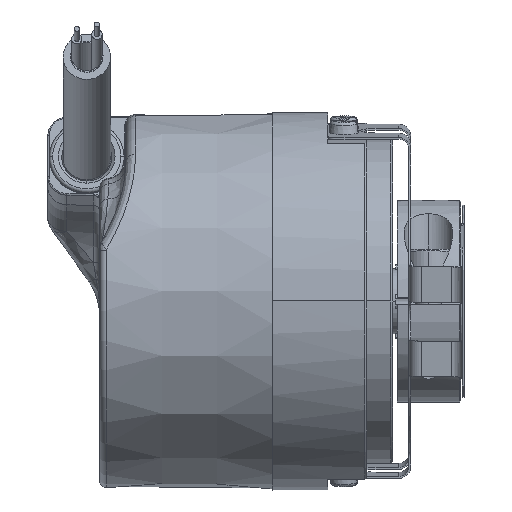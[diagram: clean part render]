
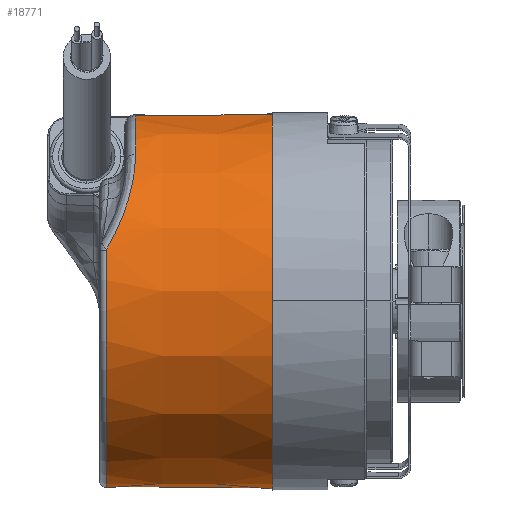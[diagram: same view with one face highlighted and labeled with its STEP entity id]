
A CAD part, top view. The second image highlights one B-rep face of the part: STEP entity #18771.
In plain terms, the highlighted conical face has half-angle 0.5 degrees and reference radius 29 mm.
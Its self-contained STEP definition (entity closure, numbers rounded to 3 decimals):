
#1206 = DIRECTION ( 'NONE',  ( 0., -0.993, -0.122 ) ) ;
#1207 = DIRECTION ( 'NONE',  ( 1., 0., 0. ) ) ;
#1208 = CARTESIAN_POINT ( 'NONE',  ( 7.5, 0., 0. ) ) ;
#1209 = AXIS2_PLACEMENT_3D ( 'NONE', #1208, #1207, #1206 ) ;
#1210 = CIRCLE ( 'NONE', #1209, 28.9 ) ;
#4961 = DIRECTION ( 'NONE',  ( 0., 0.993, 0.122 ) ) ;
#4962 = DIRECTION ( 'NONE',  ( 1., 0., 0. ) ) ;
#4963 = CARTESIAN_POINT ( 'NONE',  ( -18.009, 0., 0. ) ) ;
#4964 = AXIS2_PLACEMENT_3D ( 'NONE', #4963, #4962, #4961 ) ;
#4965 = CIRCLE ( 'NONE', #4964, 28.677 ) ;
#7772 = CARTESIAN_POINT ( 'NONE',  ( -13.513, 28.502, 3.5 ) ) ;
#8276 = CARTESIAN_POINT ( 'NONE',  ( -18.009, 7.822, 27.59 ) ) ;
#9667 = CIRCLE ( 'NONE', #9716, 28.716 ) ;
#9715 = DIRECTION ( 'NONE',  ( 0., -0.993, -0.122 ) ) ;
#9716 = AXIS2_PLACEMENT_3D ( 'NONE', #9918, #9723, #9715 ) ;
#9723 = DIRECTION ( 'NONE',  ( 1., 0., 0. ) ) ;
#9918 = CARTESIAN_POINT ( 'NONE',  ( -13.513, 0., 0. ) ) ;
#10020 = CARTESIAN_POINT ( 'NONE',  ( -13.513, 22.576, 17.747 ) ) ;
#10645 = CARTESIAN_POINT ( 'NONE',  ( 7.5, 28.684, 3.522 ) ) ;
#10933 = CARTESIAN_POINT ( 'NONE',  ( 7.5, -28.684, -3.522 ) ) ;
#11236 = DIRECTION ( 'NONE',  ( 1., -0.009, -0.001 ) ) ;
#11237 = VECTOR ( 'NONE', #11236, 1000. ) ;
#11238 = CARTESIAN_POINT ( 'NONE',  ( 19., -28.784, -3.534 ) ) ;
#11239 = LINE ( 'NONE', #11238, #11237 ) ;
#11241 = DIRECTION ( 'NONE',  ( 1., 0.009, 0.001 ) ) ;
#11242 = VECTOR ( 'NONE', #11241, 1000. ) ;
#11243 = CARTESIAN_POINT ( 'NONE',  ( 19., 28.784, 3.534 ) ) ;
#11244 = LINE ( 'NONE', #11243, #11242 ) ;
#11262 = CARTESIAN_POINT ( 'NONE',  ( -18.009, -28.463, -3.495 ) ) ;
#12760 = VERTEX_POINT ( 'NONE', #7772 ) ;
#12775 = EDGE_CURVE ( 'NONE', #12760, #12790, #9667, .T. ) ;
#12790 = VERTEX_POINT ( 'NONE', #10020 ) ;
#12799 = VERTEX_POINT ( 'NONE', #10645 ) ;
#12819 = VERTEX_POINT ( 'NONE', #10933 ) ;
#12835 = EDGE_CURVE ( 'NONE', #12760, #12799, #11244, .T. ) ;
#12842 = EDGE_CURVE ( 'NONE', #12962, #12819, #11239, .T. ) ;
#12962 = VERTEX_POINT ( 'NONE', #11262 ) ;
#12994 = VERTEX_POINT ( 'NONE', #8276 ) ;
#18590 = EDGE_CURVE ( 'NONE', #12790, #12994, #20258, .T. ) ;
#18771 = ADVANCED_FACE ( 'NONE', ( #20794 ), #20835, .T. ) ;
#18774 = EDGE_LOOP ( 'NONE', ( #18791, #18792, #18780, #18781, #18782, #19016 ) ) ;
#18780 = ORIENTED_EDGE ( 'NONE', *, *, #18590, .T. ) ;
#18781 = ORIENTED_EDGE ( 'NONE', *, *, #21677, .T. ) ;
#18782 = ORIENTED_EDGE ( 'NONE', *, *, #12842, .T. ) ;
#18791 = ORIENTED_EDGE ( 'NONE', *, *, #12835, .F. ) ;
#18792 = ORIENTED_EDGE ( 'NONE', *, *, #12775, .T. ) ;
#19016 = ORIENTED_EDGE ( 'NONE', *, *, #19017, .F. ) ;
#19017 = EDGE_CURVE ( 'NONE', #12799, #12819, #1210, .T. ) ;
#20237 = CARTESIAN_POINT ( 'NONE',  ( -18.009, 7.822, 27.59 ) ) ;
#20238 = CARTESIAN_POINT ( 'NONE',  ( -17.619, 8.483, 27.406 ) ) ;
#20239 = CARTESIAN_POINT ( 'NONE',  ( -17.253, 9.148, 27.195 ) ) ;
#20240 = CARTESIAN_POINT ( 'NONE',  ( -16.572, 10.484, 26.715 ) ) ;
#20241 = CARTESIAN_POINT ( 'NONE',  ( -16.255, 11.157, 26.444 ) ) ;
#20242 = CARTESIAN_POINT ( 'NONE',  ( -15.389, 13.156, 25.549 ) ) ;
#20243 = CARTESIAN_POINT ( 'NONE',  ( -14.923, 14.459, 24.842 ) ) ;
#20245 = CARTESIAN_POINT ( 'NONE',  ( -14.374, 16.358, 23.605 ) ) ;
#20246 = CARTESIAN_POINT ( 'NONE',  ( -14.216, 16.981, 23.163 ) ) ;
#20247 = CARTESIAN_POINT ( 'NONE',  ( -14.016, 17.9, 22.453 ) ) ;
#20248 = CARTESIAN_POINT ( 'NONE',  ( -13.955, 18.204, 22.207 ) ) ;
#20249 = CARTESIAN_POINT ( 'NONE',  ( -13.846, 18.801, 21.705 ) ) ;
#20250 = CARTESIAN_POINT ( 'NONE',  ( -13.798, 19.095, 21.448 ) ) ;
#20251 = CARTESIAN_POINT ( 'NONE',  ( -13.587, 20.534, 20.134 ) ) ;
#20252 = CARTESIAN_POINT ( 'NONE',  ( -13.513, 21.6, 18.988 ) ) ;
#20253 = CARTESIAN_POINT ( 'NONE',  ( -13.513, 22.576, 17.747 ) ) ;
#20258 = B_SPLINE_CURVE_WITH_KNOTS ( 'NONE', 3,
 ( #20253, #20252, #20251, #20250, #20249, #20248, #20247, #20246, #20245, #20243, #20242, #20241, #20240, #20239, #20238, #20237 ),
 .UNSPECIFIED., .F., .F.,
 ( 4, 2, 2, 2, 2, 2, 2, 4 ),
 ( 0., 0.005, 0.006, 0.007, 0.009, 0.014, 0.016, 0.019 ),
 .UNSPECIFIED. ) ;
#20794 = FACE_OUTER_BOUND ( 'NONE', #18774, .T. ) ;
#20830 = DIRECTION ( 'NONE',  ( 0., -0.993, -0.122 ) ) ;
#20831 = DIRECTION ( 'NONE',  ( 1., 0., 0. ) ) ;
#20832 = CARTESIAN_POINT ( 'NONE',  ( 19., 0., 0. ) ) ;
#20833 = AXIS2_PLACEMENT_3D ( 'NONE', #20832, #20831, #20830 ) ;
#20835 = CONICAL_SURFACE ( 'NONE', #20833, 29., 0.009 ) ;
#21677 = EDGE_CURVE ( 'NONE', #12994, #12962, #4965, .T. ) ;
